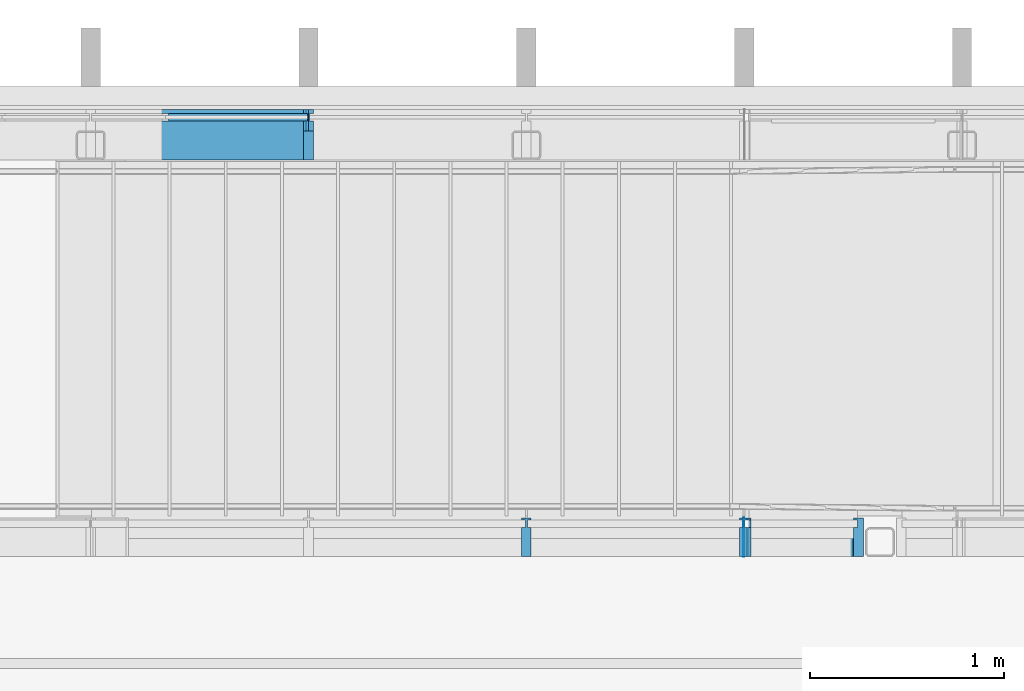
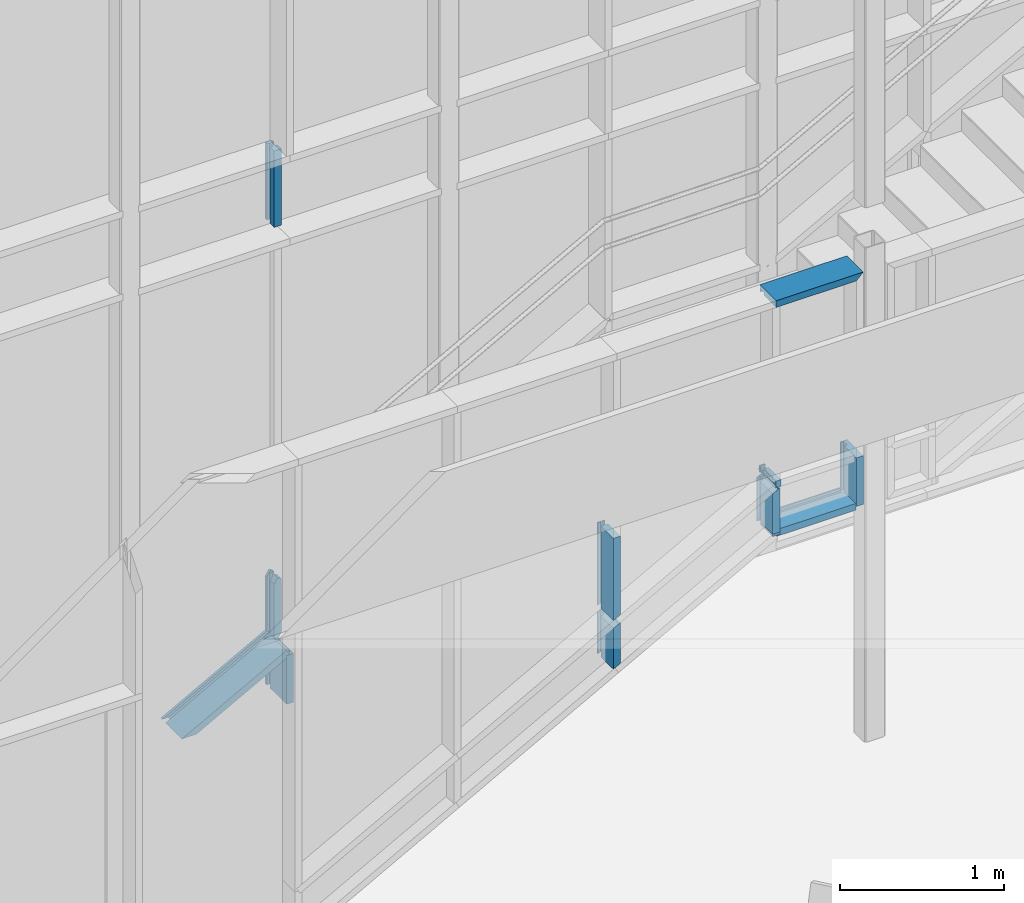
# One storey, part 67 of 301: 15 members, 2 elements without a shape of their own.
"""IFC2X3 building model written with IfcOpenShell, lengths in millimetres."""

from ifc_helpers import new_model, entity, si_unit, converted_unit, derived_unit, money_unit, direction, frame, origin_with_axes, place, context, subcontext, project, spatial, faceted_brep, material, type_object, element, aggregate, save


model = new_model("IFC2X3")

# Units and contexts
model_context = context("Model", 3, precision=0.01, world=origin_with_axes(), true_north=direction((0.0, 1.0)))
body_context = subcontext(model_context, "Body", "Model", "MODEL_VIEW")
ifc_project = project(units=[si_unit("LENGTHUNIT", "METRE", prefix="MILLI"), si_unit("AREAUNIT", "SQUARE_METRE"), si_unit("VOLUMEUNIT", "CUBIC_METRE"), converted_unit("PLANEANGLEUNIT", "DEGREE", entity("IfcPlaneAngleMeasure", 0.0174532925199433), si_unit("PLANEANGLEUNIT", "RADIAN"), dimensions=[0, 0, 0, 0, 0, 0, 0]), money_unit("EUR"), converted_unit("TIMEUNIT", "Year", entity("IfcTimeMeasure", 31557600.0), si_unit("TIMEUNIT", "SECOND"), dimensions=[0, 0, 1, 0, 0, 0, 0]), si_unit("MASSUNIT", "GRAM", prefix="KILO"), si_unit("THERMODYNAMICTEMPERATUREUNIT", "DEGREE_CELSIUS"), si_unit("LUMINOUSINTENSITYUNIT", "LUMEN"), si_unit("ENERGYUNIT", "JOULE", prefix="MEGA"), derived_unit("THERMALCONDUCTANCEUNIT", [(si_unit("POWERUNIT", "WATT"), 1), (si_unit("LENGTHUNIT", "METRE"), -1), (si_unit("THERMODYNAMICTEMPERATUREUNIT", "KELVIN"), -1)]), derived_unit("SPECIFICHEATCAPACITYUNIT", [(si_unit("ENERGYUNIT", "JOULE"), 1), (si_unit("MASSUNIT", "GRAM", prefix="KILO"), -1), (si_unit("THERMODYNAMICTEMPERATUREUNIT", "KELVIN"), -1)]), derived_unit("MASSDENSITYUNIT", [(si_unit("MASSUNIT", "GRAM", prefix="KILO"), 1), (si_unit("VOLUMEUNIT", "CUBIC_METRE"), -1)])], contexts=[model_context])

# Site, building, storey
site_placement = place(None, frame((0.0, 0.0, 8650.0), z_axis=(0.0, 0.0, 1.0), x_axis=(1.0, 0.0, 0.0)))
site = spatial("IfcSite", under=ifc_project, at=site_placement, Name="43301:001:0844", CompositionType="ELEMENT")
building_placement = place(site_placement, origin_with_axes())
building = spatial("IfcBuilding", under=site, at=building_placement, Name="Kuressaare Ametikooli tuulikute mehaanikute õppekorpus", CompositionType="ELEMENT")
storey_placement = place(building_placement, origin_with_axes())
storey = spatial("IfcBuildingStorey", under=building, at=storey_placement, Name="1.korrus", CompositionType="ELEMENT", Elevation=0.0)

# Curtain wall, members
curtain_wall_type = type_object("IfcCurtainWallType", Name="Curtain Wall Type", PredefinedType="NOTDEFINED")
curtain_wall_1_placement = place(storey_placement, frame((116704.6026822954, 28579.57374875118, 35.00000000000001), z_axis=(0.0, 0.0, 1.0), x_axis=(1.0, 0.0, 0.0)))
curtain_wall_1 = element("IfcCurtainWall", 1, at=curtain_wall_1_placement, inside=storey, type_object=curtain_wall_type, Name="KF-1.1")
ifc_material = material(Name="Aluminium")
member_type_1 = type_object("IfcMemberType", Name="Mullion Frame 50 x 260", PredefinedType="NOTDEFINED")
member_1_placement = place(curtain_wall_1_placement, frame((-8437.5, 0.0, 0.0), z_axis=(0.0, 0.0, 1.0), x_axis=(-1.0, 0.0, 0.0)))
member_1 = element("IfcMember", 2, at=member_1_placement, type_object=member_type_1, material=ifc_material, context=body_context, shape_type="Brep", body=[
    faceted_brep([(-4.999999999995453, 19.99999999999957, 388.4246589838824), (-4.999999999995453, -19.99999999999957, 388.4246589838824), (-25.00000000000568, -19.99999999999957, 388.4246589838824), (-25.00000000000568, -39.99999999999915, 388.4246589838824), (25.00000000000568, -39.99999999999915, 388.4246589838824), (25.00000000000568, -19.99999999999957, 388.4246589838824), (4.999999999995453, -19.99999999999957, 388.4246589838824), (4.999999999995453, 19.99999999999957, 388.4246589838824), (25.00000000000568, 19.99999999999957, 388.4246589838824), (25.00000000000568, 219.9999999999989, 388.4246589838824), (-25.00000000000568, 219.9999999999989, 388.4246589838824), (-25.00000000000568, 19.99999999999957, 388.4246589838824), (-4.999999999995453, 19.99999999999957, 24.99999999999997), (-4.999999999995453, -19.99999999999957, 24.99999999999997), (-25.00000000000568, -19.99999999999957, 24.99999999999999), (-25.00000000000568, -39.99999999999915, 24.99999999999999), (25.00000000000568, -39.99999999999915, 24.99999999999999), (25.00000000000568, -19.99999999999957, 24.99999999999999), (4.999999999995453, -19.99999999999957, 24.99999999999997), (4.999999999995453, 19.99999999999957, 24.99999999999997), (25.00000000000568, 19.99999999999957, 24.99999999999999), (25.00000000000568, 219.9999999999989, 25.00000000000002), (-25.00000000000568, 219.9999999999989, 25.00000000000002), (-25.00000000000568, 19.99999999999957, 24.99999999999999)], [[[0, 1, 2, 3, 4, 5, 6, 7, 8, 9, 10, 11]], [[0, 12, 13, 1]], [[1, 13, 14, 2]], [[14, 15, 3, 2]], [[4, 3, 15, 16]], [[17, 5, 4, 16]], [[5, 17, 18, 6]], [[7, 6, 18, 19]], [[8, 7, 19, 20]], [[8, 20, 21, 9]], [[10, 9, 21, 22]], [[11, 10, 22, 23]], [[11, 23, 12, 0]], [[13, 12, 23, 22, 21, 20, 19, 18, 17, 16, 15, 14]]]),
])
member_2_placement = place(curtain_wall_1_placement, frame((-8437.5, 0.0, 412.0230267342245), z_axis=(-0.8785460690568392, 0.0, -0.4776576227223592), x_axis=(0.4776576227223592, 0.0, -0.8785460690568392)))
member_2 = element("IfcMember", 3, at=member_2_placement, type_object=member_type_1, material=ifc_material, context=body_context, shape_type="Brep", body=[
    faceted_brep([(-5.000000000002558, 19.99999999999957, 819.4483631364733), (-5.000000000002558, -19.99999999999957, 819.4483631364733), (-24.99999999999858, -19.99999999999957, 856.2339613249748), (-24.99999999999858, -39.99999999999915, 856.2339613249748), (24.99999999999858, -39.99999999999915, 764.2699658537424), (24.99999999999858, -19.99999999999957, 764.2699658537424), (4.999999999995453, -19.99999999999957, 801.0555640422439), (4.999999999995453, 19.99999999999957, 801.0555640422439), (24.99999999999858, 19.99999999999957, 764.2699658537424), (24.99999999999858, 219.9999999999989, 764.2699658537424), (-24.99999999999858, 219.9999999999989, 856.2339613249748), (-24.99999999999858, 19.99999999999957, 856.2339613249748), (-4.999999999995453, 19.99999999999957, 2.972766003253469), (-4.999999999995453, -19.99999999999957, 2.972766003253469), (-25.00000000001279, -19.99999999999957, 14.86383001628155), (-25.00000000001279, -39.99999999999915, 14.86383001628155), (24.99999999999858, -39.99999999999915, 42.04838183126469), (0.0, -39.99999999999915, 0.0), (24.99999999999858, -19.99999999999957, 42.04838183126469), (5.000000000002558, -19.99999999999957, 8.40967636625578), (5.000000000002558, 19.99999999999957, 8.40967636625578), (24.99999999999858, 19.99999999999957, 42.04838183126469), (24.99999999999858, 219.9999999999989, 42.04838183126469), (-25.00000000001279, 219.9999999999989, 14.86383001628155), (0.0, 219.9999999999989, 0.0), (-25.00000000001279, 19.99999999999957, 14.86383001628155)], [[[0, 1, 2, 3, 4, 5, 6, 7, 8, 9, 10, 11]], [[0, 12, 13, 1]], [[1, 13, 14, 2]], [[14, 15, 3, 2]], [[16, 4, 3, 15, 17]], [[18, 5, 4, 16]], [[5, 18, 19, 6]], [[7, 6, 19, 20]], [[8, 7, 20, 21]], [[8, 21, 22, 9]], [[23, 10, 9, 22, 24]], [[11, 10, 23, 25]], [[11, 25, 12, 0]], [[13, 12, 25, 23, 24, 17, 15, 14]], [[16, 17, 24, 22, 21, 20, 19, 18]]]),
])
member_type_2 = type_object("IfcMemberType", Name="50 x 110", PredefinedType="NOTDEFINED")
member_3_placement = place(curtain_wall_1_placement, frame((-8437.5, 0.0, 3470.000008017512), z_axis=(0.0, 0.0, 1.0), x_axis=(-1.0, 0.0, 0.0)))
member_3 = element("IfcMember", 4, at=member_3_placement, type_object=member_type_2, material=ifc_material, context=body_context, shape_type="Brep", body=[
    faceted_brep([(-4.999999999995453, 19.99999999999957, 594.9999919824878), (-4.999999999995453, -19.99999999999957, 594.9999919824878), (-25.00000000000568, -19.99999999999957, 594.9999919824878), (-25.00000000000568, -39.99999999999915, 594.9999919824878), (25.00000000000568, -39.99999999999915, 594.9999919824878), (25.00000000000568, -19.99999999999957, 594.9999919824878), (4.999999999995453, -19.99999999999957, 594.9999919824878), (4.999999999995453, 19.99999999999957, 594.9999919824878), (25.00000000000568, 19.99999999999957, 594.9999919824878), (25.00000000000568, 70.00000000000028, 594.9999919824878), (-25.00000000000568, 70.00000000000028, 594.9999919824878), (-25.00000000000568, 19.99999999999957, 594.9999919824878), (-4.999999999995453, 19.99999999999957, 24.99999999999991), (-4.999999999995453, -19.99999999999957, 24.99999999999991), (-25.00000000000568, -19.99999999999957, 24.99999999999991), (-25.00000000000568, -39.99999999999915, 24.99999999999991), (25.00000000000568, -39.99999999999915, 24.99999999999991), (25.00000000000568, -19.99999999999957, 24.99999999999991), (4.999999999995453, -19.99999999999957, 24.99999999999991), (4.999999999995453, 19.99999999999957, 24.99999999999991), (25.00000000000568, 19.99999999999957, 24.99999999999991), (25.00000000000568, 70.00000000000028, 24.99999999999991), (-25.00000000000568, 70.00000000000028, 24.99999999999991), (-25.00000000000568, 19.99999999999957, 24.99999999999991)], [[[0, 1, 2, 3, 4, 5, 6, 7, 8, 9, 10, 11]], [[0, 12, 13, 1]], [[1, 13, 14, 2]], [[14, 15, 3, 2]], [[4, 3, 15, 16]], [[17, 5, 4, 16]], [[5, 17, 18, 6]], [[7, 6, 18, 19]], [[8, 7, 19, 20]], [[8, 20, 21, 9]], [[10, 9, 21, 22]], [[11, 10, 22, 23]], [[11, 23, 12, 0]], [[13, 12, 23, 22, 21, 20, 19, 18, 17, 16, 15, 14]]]),
])
member_4_placement = place(curtain_wall_1_placement, frame((-8437.5, 0.0, 412.0230267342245), z_axis=(0.0, 0.0, 1.0), x_axis=(-1.0, 0.0, 0.0)))
member_4 = element("IfcMember", 5, at=member_4_placement, type_object=member_type_2, material=ifc_material, context=body_context, shape_type="Brep", body=[
    faceted_brep([(-4.999999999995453, 19.99999999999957, 456.750105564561), (-4.999999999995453, -19.99999999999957, 456.750105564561), (-25.00000000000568, -19.99999999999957, 444.8590417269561), (-25.00000000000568, -39.99999999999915, 444.8590417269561), (0.0, -39.99999999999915, 459.7228715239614), (0.0, 70.00000000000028, 459.7228715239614), (-25.00000000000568, 70.00000000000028, 444.8590417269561), (-25.00000000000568, 19.99999999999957, 444.8590417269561), (-4.999999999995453, 19.99999999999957, 8.409676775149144), (-4.999999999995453, -19.99999999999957, 8.409676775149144), (-25.00000000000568, -19.99999999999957, 42.04838387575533), (-25.00000000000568, -39.99999999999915, 42.04838387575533), (0.0, -39.99999999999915, 0.0), (25.00000000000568, -39.99999999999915, 14.86383001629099), (25.00000000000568, -39.99999999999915, 417.6744896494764), (25.00000000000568, -19.99999999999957, 417.6744896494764), (4.999999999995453, -19.99999999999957, 451.3131951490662), (4.999999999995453, 19.99999999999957, 451.3131951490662), (25.00000000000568, 19.99999999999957, 417.6744896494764), (25.00000000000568, 70.00000000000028, 417.6744896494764), (0.0, 70.00000000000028, 0.0), (-25.00000000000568, 70.00000000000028, 42.04838387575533), (25.00000000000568, 70.00000000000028, 14.86383001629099), (-25.00000000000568, 19.99999999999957, 42.04838387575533), (25.00000000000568, 19.99999999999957, 14.86383001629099), (4.999999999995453, 19.99999999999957, 2.972766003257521), (4.999999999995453, -19.99999999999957, 2.972766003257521), (25.00000000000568, -19.99999999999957, 14.86383001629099)], [[[0, 1, 2, 3, 4, 5, 6, 7]], [[0, 8, 9, 1]], [[1, 9, 10, 2]], [[10, 11, 3, 2]], [[12, 13, 14, 4, 3, 11]], [[5, 4, 14, 15, 16, 17, 18, 19]], [[20, 21, 6, 5, 19, 22]], [[7, 6, 21, 23]], [[7, 23, 8, 0]], [[9, 8, 23, 21, 20, 12, 11, 10]], [[13, 12, 20, 22, 24, 25, 26, 27]], [[27, 15, 14, 13]], [[15, 27, 26, 16]], [[17, 16, 26, 25]], [[18, 17, 25, 24]], [[18, 24, 22, 19]]]),
])
member_5_placement = place(curtain_wall_1_placement, frame((-8437.5, 0.0, 388.4246589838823), z_axis=(0.0, 0.0, 1.0), x_axis=(-1.0, 0.0, 0.0)))
member_5 = element("IfcMember", 6, at=member_5_placement, type_object=member_type_2, material=ifc_material, context=body_context, shape_type="Brep", body=[
    faceted_brep([(-4.999999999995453, 19.99999999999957, 20.62560189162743), (-4.999999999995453, -19.99999999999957, 20.62560189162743), (-25.00000000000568, -19.99999999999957, 8.73453845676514), (-25.00000000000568, -39.99999999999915, 8.73453845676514), (0.0, -39.99999999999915, 23.59836775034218), (0.0, 70.00000000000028, 23.59836775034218), (-25.00000000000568, 70.00000000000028, 8.73453845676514), (-25.00000000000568, 19.99999999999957, 8.73453845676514), (-4.999999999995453, 19.99999999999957, 0.0), (-4.999999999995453, -19.99999999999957, 0.0), (-25.00000000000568, -19.99999999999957, 0.0), (-25.00000000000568, -39.99999999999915, 0.0), (14.0304850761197, -39.99999999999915, 0.0), (14.0304850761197, -19.99999999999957, 0.0), (4.999999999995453, -19.99999999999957, 15.18869138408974), (4.999999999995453, 19.99999999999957, 15.18869138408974), (14.0304850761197, 19.99999999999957, 0.0), (14.0304850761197, 70.00000000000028, 0.0), (-25.00000000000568, 70.00000000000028, 0.0), (-25.00000000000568, 19.99999999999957, 0.0), (4.999999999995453, 19.99999999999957, 0.0), (4.999999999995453, -19.99999999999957, 0.0)], [[[0, 1, 2, 3, 4, 5, 6, 7]], [[0, 8, 9, 1]], [[1, 9, 10, 2]], [[10, 11, 3, 2]], [[12, 4, 3, 11]], [[5, 4, 12, 13, 14, 15, 16, 17]], [[18, 6, 5, 17]], [[7, 6, 18, 19]], [[7, 19, 8, 0]], [[9, 8, 19, 18, 17, 16, 20, 21, 13, 12, 11, 10]], [[21, 14, 13]], [[15, 14, 21, 20]], [[15, 20, 16]]]),
])
aggregate(curtain_wall_1, [member_3, member_1, member_4, member_5, member_2])

curtain_wall_2_placement = place(storey_placement, frame((105155.4360221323, 26479.57374875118, 34.99996632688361), z_axis=(0.0, 0.0, 1.0), x_axis=(1.0, 0.0, 0.0)))
curtain_wall_2 = element("IfcCurtainWall", 7, at=curtain_wall_2_placement, inside=storey, type_object=curtain_wall_type, Name="SKF-1.1,EI60")
member_type_3 = type_object("IfcMemberType", Name="Boundary Frame 50 x 200", PredefinedType="NOTDEFINED")
member_6_placement = place(curtain_wall_2_placement, frame((5952.513291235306, 0.0, 3460.000013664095), z_axis=(-0.9999999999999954, 0.0, -9.571151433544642e-08), x_axis=(9.571151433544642e-08, 0.0, -0.9999999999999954)))
member_6 = element("IfcMember", 8, at=member_6_placement, type_object=member_type_3, material=ifc_material, context=body_context, shape_type="Brep", body=[
    faceted_brep([(4.999943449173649, 19.99999999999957, 590.8466339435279), (24.99994344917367, 19.99999999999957, 590.8466358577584), (24.99994344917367, 170.0000000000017, 590.8466358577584), (-25.00005655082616, 170.0000000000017, 590.846631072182), (-25.00005655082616, -30.00000000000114, 590.846631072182), (24.99994344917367, -30.00000000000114, 590.8466358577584), (24.99994344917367, -19.99999999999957, 590.8466358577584), (4.999943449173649, -19.99999999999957, 590.8466339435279), (4.999999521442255, 19.99999999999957, 5.000000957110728), (24.99999760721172, 19.99999999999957, 25.00000478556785), (24.99999760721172, 170.0000000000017, 25.00000478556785), (-24.99999760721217, 170.0000000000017, -25.00000478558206), (-24.99999760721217, -30.00000000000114, -25.00000478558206), (24.99999760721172, -30.00000000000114, 25.00000478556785), (24.99999760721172, -19.99999999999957, 25.00000478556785), (4.999999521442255, -19.99999999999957, 5.000000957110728)], [[[0, 1, 2, 3, 4, 5, 6, 7]], [[0, 8, 9, 1]], [[9, 10, 2, 1]], [[2, 10, 11, 3]], [[3, 11, 12, 4]], [[4, 12, 13, 5]], [[6, 5, 13, 14]], [[14, 15, 7, 6]], [[7, 15, 8, 0]], [[8, 15, 14, 13, 12, 11, 10, 9]]]),
])
member_7_placement = place(curtain_wall_2_placement, frame((5361.66666016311, 0.0, 2095.114903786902), z_axis=(0.8785173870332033, 0.0, 0.477710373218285), x_axis=(-0.477710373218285, 0.0, 0.8785173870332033)))
member_7 = element("IfcMember", 9, at=member_7_placement, type_object=member_type_3, material=ifc_material, context=body_context, shape_type="Brep", body=[
    faceted_brep([(-5.000000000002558, 19.99999999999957, 2.941886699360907), (-5.000000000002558, -19.99999999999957, 2.941886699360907), (-24.99999999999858, -19.99999999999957, 2.941886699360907), (-24.99999999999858, -30.00000000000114, 2.941886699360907), (24.99999999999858, -30.00000000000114, 2.941886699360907), (24.99999999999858, -19.99999999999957, 2.941886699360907), (4.999999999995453, -19.99999999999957, 2.941886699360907), (4.999999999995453, 19.99999999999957, 2.941886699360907), (24.99999999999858, 19.99999999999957, 2.941886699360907), (24.99999999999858, 170.0000000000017, 2.941886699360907), (-24.99999999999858, 170.0000000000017, 2.941886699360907), (-24.99999999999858, 19.99999999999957, 2.941886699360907), (-5.000000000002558, 19.99999999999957, -4.405737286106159e-05), (-5.000000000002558, -19.99999999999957, -4.405737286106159e-05), (-25.00000000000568, -19.99999999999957, -4.405735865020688e-05), (-25.00000000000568, -30.00000000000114, -4.405735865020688e-05), (24.99999999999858, -30.00000000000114, -4.405735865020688e-05), (24.99999999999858, -19.99999999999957, -4.405735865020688e-05), (4.999999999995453, -19.99999999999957, -4.405737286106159e-05), (4.999999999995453, 19.99999999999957, -4.405737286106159e-05), (24.99999999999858, 19.99999999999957, -4.405735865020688e-05), (24.99999999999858, 170.0000000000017, -4.405735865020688e-05), (-25.00000000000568, 170.0000000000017, -4.405735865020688e-05), (-25.00000000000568, 19.99999999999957, -4.405735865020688e-05)], [[[0, 1, 2, 3, 4, 5, 6, 7, 8, 9, 10, 11]], [[0, 12, 13, 1]], [[1, 13, 14, 2]], [[14, 15, 3, 2]], [[3, 15, 16, 4]], [[17, 5, 4, 16]], [[5, 17, 18, 6]], [[7, 6, 18, 19]], [[8, 7, 19, 20]], [[8, 20, 21, 9]], [[9, 21, 22, 10]], [[11, 10, 22, 23]], [[11, 23, 12, 0]], [[13, 12, 23, 22, 21, 20, 19, 18, 17, 16, 15, 14]]]),
])
member_8_placement = place(curtain_wall_2_placement, frame((5364.911019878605, 0.0, 1749.699880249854), z_axis=(1.0, 0.0, 0.0), x_axis=(0.0, 0.0, 1.0)))
member_8 = element("IfcMember", 10, at=member_8_placement, type_object=member_type_3, material=ifc_material, context=body_context, shape_type="Brep", body=[
    faceted_brep([(-4.999999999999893, 19.99999999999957, 559.4891192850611), (-4.999999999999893, -19.99999999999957, 559.4891192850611), (-24.99999999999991, -19.99999999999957, 559.4891192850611), (-24.99999999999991, -30.00000000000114, 559.4891192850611), (24.99999999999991, -30.00000000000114, 559.4891192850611), (24.99999999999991, -19.99999999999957, 559.4891192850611), (4.999999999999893, -19.99999999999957, 559.4891192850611), (4.999999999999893, 19.99999999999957, 559.4891192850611), (24.99999999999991, 19.99999999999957, 559.4891192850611), (24.99999999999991, 170.0000000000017, 559.4891192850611), (-24.99999999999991, 170.0000000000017, 559.4891192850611), (-24.99999999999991, 19.99999999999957, 559.4891192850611), (-4.999999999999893, 19.99999999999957, 0.0), (-4.999999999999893, -19.99999999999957, 0.0), (-24.99999999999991, -19.99999999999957, 0.0), (-24.99999999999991, -30.00000000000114, 0.0), (24.99999999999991, -30.00000000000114, 0.0), (24.99999999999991, -19.99999999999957, 0.0), (4.999999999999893, -19.99999999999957, 0.0), (4.999999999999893, 19.99999999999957, 0.0), (24.99999999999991, 19.99999999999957, 0.0), (24.99999999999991, 170.0000000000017, 0.0), (-24.99999999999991, 170.0000000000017, 0.0), (-24.99999999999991, 19.99999999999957, 0.0)], [[[0, 1, 2, 3, 4, 5, 6, 7, 8, 9, 10, 11]], [[0, 12, 13, 1]], [[1, 13, 14, 2]], [[14, 15, 3, 2]], [[3, 15, 16, 4]], [[17, 5, 4, 16]], [[5, 17, 18, 6]], [[7, 6, 18, 19]], [[8, 7, 19, 20]], [[8, 20, 21, 9]], [[9, 21, 22, 10]], [[11, 10, 22, 23]], [[11, 23, 12, 0]], [[13, 12, 23, 22, 21, 20, 19, 18, 17, 16, 15, 14]]]),
])
member_9_placement = place(curtain_wall_2_placement, frame((5952.513291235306, 0.0, 1749.699880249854), z_axis=(0.0, 0.0, 1.0), x_axis=(-1.0, 0.0, 0.0)))
member_9 = element("IfcMember", 11, at=member_9_placement, type_object=member_type_3, material=ifc_material, context=body_context, shape_type="Brep", body=[
    faceted_brep([(4.999999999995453, 19.99999999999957, 363.8489917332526), (25.00000000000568, 19.99999999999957, 363.8489917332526), (25.00000000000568, 170.0000000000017, 363.8489917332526), (-25.00000000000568, 170.0000000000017, 363.8489917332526), (-25.00000000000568, -30.00000000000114, 363.8489917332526), (25.00000000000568, -30.00000000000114, 363.8489917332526), (25.00000000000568, -19.99999999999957, 363.8489917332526), (4.999999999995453, -19.99999999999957, 363.8489917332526), (4.999999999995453, 19.99999999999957, 0.0), (25.00000000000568, 19.99999999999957, 0.0), (25.00000000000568, 170.0000000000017, 0.0), (-25.00000000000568, 170.0000000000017, 0.0), (-25.00000000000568, -30.00000000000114, 0.0), (25.00000000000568, -30.00000000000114, 0.0), (25.00000000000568, -19.99999999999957, 0.0), (4.999999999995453, -19.99999999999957, 0.0)], [[[0, 1, 2, 3, 4, 5, 6, 7]], [[0, 8, 9, 1]], [[9, 10, 2, 1]], [[10, 11, 3, 2]], [[11, 12, 4, 3]], [[12, 13, 5, 4]], [[6, 5, 13, 14]], [[14, 15, 7, 6]], [[7, 15, 8, 0]], [[8, 15, 14, 13, 12, 11, 10, 9]]]),
])
member_10_placement = place(curtain_wall_2_placement, frame((5361.66666016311, 0.0, 2113.548871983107), z_axis=(1.0, 0.0, 0.0), x_axis=(0.0, 0.0, 1.0)))
member_10 = element("IfcMember", 12, at=member_10_placement, type_object=member_type_3, material=ifc_material, context=body_context, shape_type="Brep", body=[
    faceted_brep([(-4.999999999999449, 19.99999999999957, 33.90037663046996), (-4.999999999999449, -19.99999999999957, 33.90037663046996), (-24.99999999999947, -19.99999999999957, 33.90037663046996), (-24.99999999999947, -30.00000000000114, 33.90037663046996), (25.00000000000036, -30.00000000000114, 33.90037663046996), (25.00000000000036, -19.99999999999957, 33.90037663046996), (5.000000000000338, -19.99999999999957, 33.90037663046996), (5.000000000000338, 19.99999999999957, 33.90037663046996), (25.00000000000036, 19.99999999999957, 33.90037663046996), (25.00000000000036, 170.0000000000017, 33.90037663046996), (-24.99999999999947, 170.0000000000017, 33.90037663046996), (-24.99999999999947, 19.99999999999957, 33.90037663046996), (-4.999999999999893, 19.99999999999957, -8.506928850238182e-05), (-4.999999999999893, -19.99999999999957, -8.506928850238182e-05), (-24.99999999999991, -19.99999999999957, -8.506928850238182e-05), (-24.99999999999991, -30.00000000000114, -8.506928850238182e-05), (24.99999999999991, -30.00000000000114, -8.506928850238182e-05), (24.99999999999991, -19.99999999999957, -8.506928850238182e-05), (4.999999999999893, -19.99999999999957, -8.506928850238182e-05), (4.999999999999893, 19.99999999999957, -8.506928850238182e-05), (24.99999999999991, 19.99999999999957, -8.506928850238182e-05), (24.99999999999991, 170.0000000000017, -8.506928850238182e-05), (-24.99999999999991, 170.0000000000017, -8.506928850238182e-05), (-24.99999999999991, 19.99999999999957, -8.506928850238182e-05)], [[[0, 1, 2, 3, 4, 5, 6, 7, 8, 9, 10, 11]], [[0, 12, 13, 1]], [[1, 13, 14, 2]], [[14, 15, 3, 2]], [[3, 15, 16, 4]], [[17, 5, 4, 16]], [[5, 17, 18, 6]], [[7, 6, 18, 19]], [[8, 7, 19, 20]], [[8, 20, 21, 9]], [[9, 21, 22, 10]], [[11, 10, 22, 23]], [[11, 23, 12, 0]], [[13, 12, 23, 22, 21, 20, 19, 18, 17, 16, 15, 14]]]),
])
member_11_placement = place(curtain_wall_2_placement, frame((5356.666657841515, 0.0, 2113.548888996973), z_axis=(0.9999999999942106, 0.0, -3.402771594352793e-06), x_axis=(3.402771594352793e-06, 0.0, 0.9999999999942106)))
member_11 = element("IfcMember", 13, at=member_11_placement, type_object=member_type_3, material=ifc_material, context=body_context, shape_type="Brep", body=[
    faceted_brep([(-4.999982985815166, 19.99999999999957, 5.0001044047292), (-4.999982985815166, -19.99999999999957, 5.0001044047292), (-24.99998298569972, -19.99999999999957, 5.00017246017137), (-24.99998298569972, -30.00000000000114, 5.00017246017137), (25.00001701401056, -30.00000000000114, 5.000002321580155), (25.00001701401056, -19.99999999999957, 5.000002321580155), (5.000017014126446, -19.99999999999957, 5.000070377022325), (5.000017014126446, 19.99999999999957, 5.000070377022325), (25.00001701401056, 19.99999999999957, 5.000002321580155), (25.00001701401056, 170.0000000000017, 5.000002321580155), (-24.99998298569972, 170.0000000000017, 5.00017246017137), (-24.99998298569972, 19.99999999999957, 5.00017246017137), (-4.999999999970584, 19.99999999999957, 1.701384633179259e-05), (-4.999999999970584, -19.99999999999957, 1.701384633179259e-05), (-24.99999999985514, -19.99999999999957, 8.506928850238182e-05), (-24.99999999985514, -30.00000000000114, 8.506928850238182e-05), (24.99999999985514, -30.00000000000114, -8.506930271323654e-05), (24.99999999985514, -19.99999999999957, -8.506930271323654e-05), (4.999999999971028, -19.99999999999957, -1.701386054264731e-05), (4.999999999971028, 19.99999999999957, -1.701386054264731e-05), (24.99999999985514, 19.99999999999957, -8.506930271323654e-05), (24.99999999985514, 170.0000000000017, -8.506930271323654e-05), (-24.99999999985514, 170.0000000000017, 8.506928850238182e-05), (-24.99999999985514, 19.99999999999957, 8.506928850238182e-05)], [[[0, 1, 2, 3, 4, 5, 6, 7, 8, 9, 10, 11]], [[0, 12, 13, 1]], [[1, 13, 14, 2]], [[14, 15, 3, 2]], [[3, 15, 16, 4]], [[17, 5, 4, 16]], [[5, 17, 18, 6]], [[7, 6, 18, 19]], [[8, 7, 19, 20]], [[8, 20, 21, 9]], [[9, 21, 22, 10]], [[11, 10, 22, 23]], [[11, 23, 12, 0]], [[13, 12, 23, 22, 21, 20, 19, 18, 17, 16, 15, 14]]]),
])
member_type_4 = type_object("IfcMemberType", Name="Mullion Frame 50 x 200", PredefinedType="NOTDEFINED")
member_12_placement = place(curtain_wall_2_placement, frame((5361.66666016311, 0.0, 1749.699880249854), z_axis=(0.0, 0.0, 1.0), x_axis=(-1.0, 0.0, 0.0)))
member_12 = element("IfcMember", 14, at=member_12_placement, type_object=member_type_4, material=ifc_material, context=body_context, shape_type="Brep", body=[
    faceted_brep([(-4.999999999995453, 19.99999999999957, 319.6768327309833), (-4.999999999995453, -19.99999999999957, 319.6768327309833), (-25.00000000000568, -19.99999999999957, 330.5522093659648), (-25.00000000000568, -30.00000000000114, 330.5522093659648), (25.00000000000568, -30.00000000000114, 303.3637677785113), (25.00000000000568, -19.99999999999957, 303.3637677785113), (4.999999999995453, -19.99999999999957, 314.2391444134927), (4.999999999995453, 19.99999999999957, 314.2391444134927), (25.00000000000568, 19.99999999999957, 303.3637677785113), (25.00000000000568, 170.0000000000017, 303.3637677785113), (-25.00000000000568, 170.0000000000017, 330.5522093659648), (-25.00000000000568, 19.99999999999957, 330.5522093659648), (-4.999999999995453, 19.99999999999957, 0.0), (-4.999999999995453, -19.99999999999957, 0.0), (-25.00000000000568, -19.99999999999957, 0.0), (-25.00000000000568, -30.00000000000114, 0.0), (25.00000000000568, -30.00000000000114, 0.0), (25.00000000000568, -19.99999999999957, 0.0), (4.999999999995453, -19.99999999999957, 0.0), (4.999999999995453, 19.99999999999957, 0.0), (25.00000000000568, 19.99999999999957, 0.0), (25.00000000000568, 170.0000000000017, 0.0), (-25.00000000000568, 170.0000000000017, 0.0), (-25.00000000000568, 19.99999999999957, 0.0)], [[[0, 1, 2, 3, 4, 5, 6, 7, 8, 9, 10, 11]], [[0, 12, 13, 1]], [[1, 13, 14, 2]], [[14, 15, 3, 2]], [[3, 15, 16, 4]], [[17, 5, 4, 16]], [[5, 17, 18, 6]], [[7, 6, 18, 19]], [[8, 7, 19, 20]], [[8, 20, 21, 9]], [[9, 21, 22, 10]], [[11, 10, 22, 23]], [[11, 23, 12, 0]], [[13, 12, 23, 22, 21, 20, 19, 18, 17, 16, 15, 14]]]),
])
member_13_placement = place(curtain_wall_2_placement, frame((4236.66666016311, 0.0, 1120.911323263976), z_axis=(0.0, 0.0, 1.0), x_axis=(-1.0, 0.0, 0.0)))
member_13 = element("IfcMember", 15, at=member_13_placement, type_object=member_type_4, material=ifc_material, context=body_context, shape_type="Brep", body=[
    faceted_brep([(-4.999999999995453, 19.99999999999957, 336.7280386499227), (-4.999999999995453, -19.99999999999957, 336.7280386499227), (-25.00000000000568, -19.99999999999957, 347.6033696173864), (-25.00000000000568, -30.00000000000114, 347.6033696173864), (25.00000000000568, -30.00000000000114, 320.4150421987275), (25.00000000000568, -19.99999999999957, 320.4150421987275), (4.999999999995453, -19.99999999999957, 331.2903731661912), (4.999999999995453, 19.99999999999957, 331.2903731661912), (25.00000000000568, 19.99999999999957, 320.4150421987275), (25.00000000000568, 170.0000000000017, 320.4150421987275), (-25.00000000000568, 170.0000000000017, 347.6033696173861), (-25.00000000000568, 19.99999999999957, 347.6033696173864), (-4.999999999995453, 19.99999999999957, 31.17584070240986), (-4.999999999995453, -19.99999999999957, 31.17584070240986), (-25.00000000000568, -19.99999999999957, 42.05117198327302), (-25.00000000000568, -30.00000000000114, 42.05117198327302), (25.00000000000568, -30.00000000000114, 14.86284378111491), (25.00000000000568, -19.99999999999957, 14.86284378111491), (4.999999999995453, -19.99999999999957, 25.73817506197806), (4.999999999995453, 19.99999999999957, 25.73817506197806), (25.00000000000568, 19.99999999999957, 14.86284378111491), (25.00000000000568, 170.0000000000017, 14.86284378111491), (-25.00000000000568, 170.0000000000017, 42.05117198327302), (-25.00000000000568, 19.99999999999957, 42.05117198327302)], [[[0, 1, 2, 3, 4, 5, 6, 7, 8, 9, 10, 11]], [[0, 12, 13, 1]], [[1, 13, 14, 2]], [[14, 15, 3, 2]], [[4, 3, 15, 16]], [[17, 5, 4, 16]], [[5, 17, 18, 6]], [[7, 6, 18, 19]], [[8, 7, 19, 20]], [[8, 20, 21, 9]], [[10, 9, 21, 22]], [[11, 10, 22, 23]], [[11, 23, 12, 0]], [[13, 12, 23, 22, 21, 20, 19, 18, 17, 16, 15, 14]]]),
])
member_14_placement = place(curtain_wall_2_placement, frame((5361.66666016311, 0.0, 1732.648707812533), z_axis=(0.0, 0.0, 1.0), x_axis=(-1.0, 0.0, 0.0)))
member_14 = element("IfcMember", 16, at=member_14_placement, type_object=member_type_4, material=ifc_material, context=body_context, shape_type="Brep", body=[
    faceted_brep([(-4.999999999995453, 19.99999999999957, 17.05117243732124), (-4.999999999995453, -19.99999999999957, 17.05117243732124), (-25.00000000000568, -19.99999999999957, 17.05117243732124), (-25.00000000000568, -30.00000000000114, 17.05117243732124), (25.00000000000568, -30.00000000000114, 17.05117243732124), (25.00000000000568, -19.99999999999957, 17.05117243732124), (4.999999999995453, -19.99999999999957, 17.05117243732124), (4.999999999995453, 19.99999999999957, 17.05117243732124), (25.00000000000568, 19.99999999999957, 17.05117243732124), (25.00000000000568, 170.0000000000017, 17.05117243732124), (-25.00000000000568, 170.0000000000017, 17.05117243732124), (-25.00000000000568, 19.99999999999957, 17.05117243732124), (-4.999999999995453, 19.99999999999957, 0.0), (-4.999999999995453, -19.99999999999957, 0.0), (-25.00000000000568, -19.99999999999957, 0.0), (-25.00000000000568, -30.00000000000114, 0.0), (25.00000000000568, -30.00000000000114, 0.0), (25.00000000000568, -19.99999999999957, 0.0), (4.999999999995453, -19.99999999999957, 0.0), (4.999999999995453, 19.99999999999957, 0.0), (25.00000000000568, 19.99999999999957, 0.0), (25.00000000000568, 170.0000000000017, 0.0), (-25.00000000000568, 170.0000000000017, 0.0), (-25.00000000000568, 19.99999999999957, 0.0)], [[[0, 1, 2, 3, 4, 5, 6, 7, 8, 9, 10, 11]], [[0, 12, 13, 1]], [[1, 13, 14, 2]], [[14, 15, 3, 2]], [[3, 15, 16, 4]], [[17, 5, 4, 16]], [[5, 17, 18, 6]], [[7, 6, 18, 19]], [[8, 7, 19, 20]], [[8, 20, 21, 9]], [[9, 21, 22, 10]], [[11, 10, 22, 23]], [[11, 23, 12, 0]], [[13, 12, 23, 22, 21, 20, 19, 18, 17, 16, 15, 14]]]),
])
member_15_placement = place(curtain_wall_2_placement, frame((4236.66666016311, 0.0, 1483.37753686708), z_axis=(0.0, 0.0, 1.0), x_axis=(-1.0, 0.0, 0.0)))
member_15 = element("IfcMember", 17, at=member_15_placement, type_object=member_type_4, material=ifc_material, context=body_context, shape_type="Brep", body=[
    faceted_brep([(-4.999999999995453, 19.99999999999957, 630.1751632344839), (-4.999999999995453, -19.99999999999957, 630.1751632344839), (-25.00000000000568, -19.99999999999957, 630.1751632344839), (-25.00000000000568, -30.00000000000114, 630.1751632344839), (25.00000000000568, -30.00000000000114, 630.1751632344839), (25.00000000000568, -19.99999999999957, 630.1751632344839), (4.999999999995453, -19.99999999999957, 630.1751632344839), (4.999999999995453, 19.99999999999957, 630.1751632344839), (25.00000000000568, 19.99999999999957, 630.1751632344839), (25.00000000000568, 170.0000000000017, 630.1751632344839), (-25.00000000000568, 170.0000000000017, 630.1751632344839), (-25.00000000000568, 19.99999999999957, 630.1751632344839), (-4.999999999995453, 19.99999999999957, 31.17584225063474), (-4.999999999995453, -19.99999999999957, 31.17584225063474), (-25.00000000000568, -19.99999999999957, 42.05117535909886), (-25.00000000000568, -30.00000000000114, 42.05117535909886), (25.00000000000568, -30.00000000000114, 14.86284258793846), (25.00000000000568, -19.99999999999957, 14.86284258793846), (4.999999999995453, -19.99999999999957, 25.73817569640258), (4.999999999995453, 19.99999999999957, 25.73817569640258), (25.00000000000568, 19.99999999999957, 14.86284258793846), (25.00000000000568, 170.0000000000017, 14.86284258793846), (-25.00000000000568, 170.0000000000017, 42.05117535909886), (-25.00000000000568, 19.99999999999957, 42.05117535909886)], [[[0, 1, 2, 3, 4, 5, 6, 7, 8, 9, 10, 11]], [[0, 12, 13, 1]], [[1, 13, 14, 2]], [[14, 15, 3, 2]], [[4, 3, 15, 16]], [[17, 5, 4, 16]], [[5, 17, 18, 6]], [[7, 6, 18, 19]], [[8, 7, 19, 20]], [[8, 20, 21, 9]], [[10, 9, 21, 22]], [[11, 10, 22, 23]], [[11, 23, 12, 0]], [[13, 12, 23, 22, 21, 20, 19, 18, 17, 16, 15, 14]]]),
])
aggregate(curtain_wall_2, [member_12, member_6, member_13, member_7, member_14, member_8, member_9, member_10, member_11, member_15])

save(model, "model.ifc")
